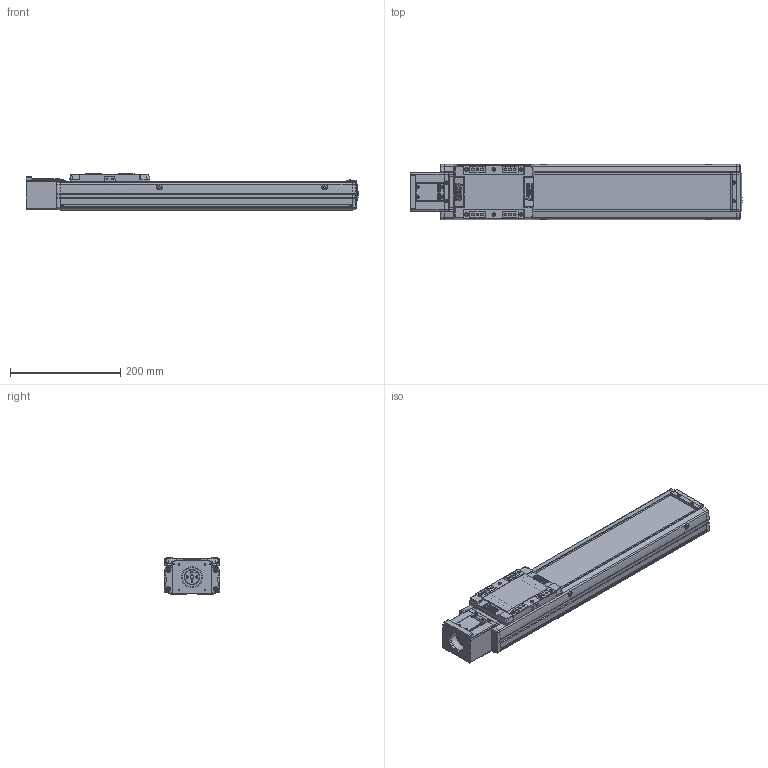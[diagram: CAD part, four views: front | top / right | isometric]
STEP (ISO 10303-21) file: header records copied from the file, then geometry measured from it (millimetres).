
FILE_DESCRIPTION(('STEP AP214'),'1');
FILE_NAME('Z:/Web/3D/SAN100/SAN100 양산용 (STEP)/SAN100ㅁㅁ-350S.stp','2013-05-08T06:20:36',(' '),(' '),'Spatial InterOp 3D',' ',' ');
FILE_SCHEMA(('automotive_design'));
Length unit declared in the file: millimetre
Products named in the file (40): SUS COVER; SFX-SAN100; RRCV-SAN100; 스크루 : Round - M4.0 x 10.0; M3.0 x 6.0; 스크루 : Round - M3.0 x 6.0; FRBL-SAN100; SLBL-SAN100; SLCV-SAN100; 스크루 : Countersunk - M3.0 x 6.0; BASE; 스크루 : Round - M5.0 x 6.0; MTHZ-SAN100-S56A; SDA26C-8-6.35; SSFX-SAN65; CPLCV-SAN65; FRCV-SAN100
Bounding box: 602.5 x 100 x 66 mm (x, y, z)
Volume: 1739485 mm3; surface area: 445877.9 mm2
Topology: 40 solids, 41 shells, 2392 faces, 6302 edges, 4077 vertices
Faces by surface type: plane 1139, cylinder 923, cone 213, sphere 52, torus 45, bspline 20
Entity records: 95890 total; most frequent: CARTESIAN_POINT 15169, DIRECTION 13338, ORIENTED_EDGE 12440, EDGE_CURVE 6220, AXIS2_PLACEMENT_3D 4881, VERTEX_POINT 4077, LINE 3576, VECTOR 3576
